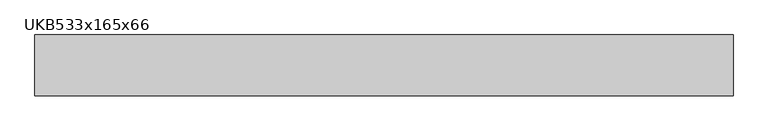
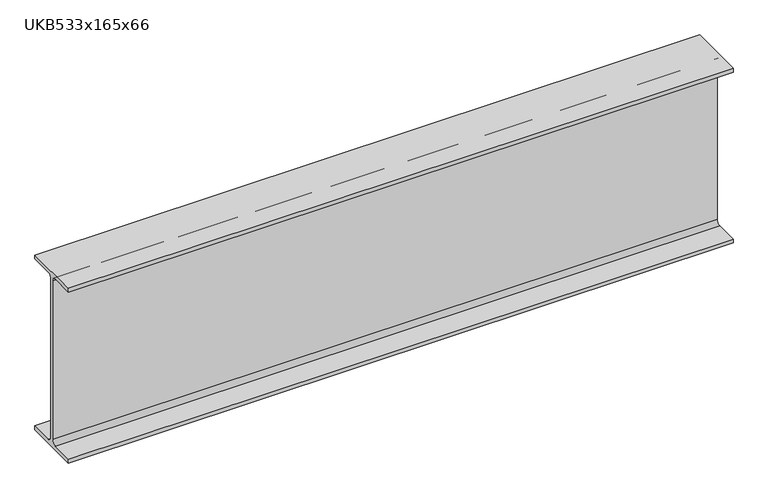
"""IFC4 building model written with IfcOpenShell, lengths in millimetres: beam geometry, UKB-UK Beams : UKB533x165x66."""

import ifcopenshell
import ifcopenshell.guid

model = None  # the IFC model being written
_history = None  # IfcOwnerHistory: only IFC2X3 demands one
_inside = {}  # id of a spatial element -> (the spatial element, [elements in it])
_under = {}  # id of a project, library or spatial element -> (it, [spatial elements below it])
_declared = {}  # id of a project -> (the project, [libraries it declares])
_typed = {}  # id of a type object -> (the type object, [elements of that type])
_made_of = {}  # id of a material, layer set ... -> (it, [elements and type objects made of it])


def new_model(schema):
    """Start an empty IFC model of exactly this schema.

    Asked for "IFC4X3", IfcOpenShell would pick the latest addendum, in which some entities
    have other attributes; the version numbers below select the first issue.
    IFC2X3 requires an IfcOwnerHistory on every rooted entity: one is made here for all.
    """
    global model, _history
    if schema == "IFC4X3":
        model = ifcopenshell.file(schema_version=(4, 3, 0, 0))
    else:
        model = ifcopenshell.file(schema=schema)
    _inside.clear()
    _under.clear()
    _declared.clear()
    _typed.clear()
    _made_of.clear()
    _history = None
    if model.schema == "IFC2X3":
        org = make("IfcOrganization", Name="unknown")
        user = make(
            "IfcPersonAndOrganization",
            ThePerson=make("IfcPerson", FamilyName="unknown"),
            TheOrganization=org,
        )
        app = make(
            "IfcApplication",
            ApplicationDeveloper=org,
            Version="unknown",
            ApplicationFullName="unknown",
            ApplicationIdentifier="unknown",
        )
        _history = make(
            "IfcOwnerHistory",
            OwningUser=user,
            OwningApplication=app,
            ChangeAction="ADDED",
            CreationDate=0,
        )
    return model


def make(cls, **values):
    """One entity of the class cls with the attributes given. An attribute that is None is left unset."""
    return model.create_entity(
        cls, **{name: value for name, value in values.items() if value is not None}
    )


def rooted(cls, **values):
    """An entity with a GlobalId (a new one), such as an element, a storey or a relation."""
    return make(cls, GlobalId=ifcopenshell.guid.new(), OwnerHistory=_history, **values)


def si_unit(unit_type, name, prefix=None):
    """IfcSIUnit, for example si_unit("LENGTHUNIT", "METRE", prefix="MILLI")."""
    return make("IfcSIUnit", UnitType=unit_type, Prefix=prefix, Name=name)


def assignment(units):
    """IfcUnitAssignment: the units of a project."""
    return None if units is None else make("IfcUnitAssignment", Units=units)


def point(xyz):
    """IfcCartesianPoint."""
    return None if xyz is None else make("IfcCartesianPoint", Coordinates=xyz)


def direction(xyz):
    """IfcDirection."""
    return None if xyz is None else make("IfcDirection", DirectionRatios=xyz)


def frame(location, z_axis=None, x_axis=None):
    """IfcAxis2Placement3D, a coordinate frame: its origin and axes. An axis left out is left unset."""
    return make(
        "IfcAxis2Placement3D",
        Location=point(location),
        Axis=direction(z_axis),
        RefDirection=direction(x_axis),
    )


def frame_2d(location, x_axis=None):
    """IfcAxis2Placement2D, a coordinate frame in the plane: its origin and x axis."""
    return make(
        "IfcAxis2Placement2D", Location=point(location), RefDirection=direction(x_axis)
    )


def origin():
    """The frame at (0, 0, 0) with its axes left unset."""
    return frame((0.0, 0.0, 0.0))


def place(relative_to, where):
    """IfcLocalPlacement: puts the frame where relative to a parent placement (None: the world)."""
    return make(
        "IfcLocalPlacement", PlacementRelTo=relative_to, RelativePlacement=where
    )


def context(
    kind, dimensions, precision=None, world=None, true_north=None, identifier=None
):
    """IfcGeometricRepresentationContext, for example the 3D "Model" context."""
    return make(
        "IfcGeometricRepresentationContext",
        ContextIdentifier=identifier,
        ContextType=kind,
        CoordinateSpaceDimension=dimensions,
        Precision=precision,
        WorldCoordinateSystem=world,
        TrueNorth=true_north,
    )


def project(units=None, contexts=None):
    """IfcProject with its units and contexts."""
    return rooted(
        "IfcProject",
        Name="project",
        RepresentationContexts=contexts,
        UnitsInContext=assignment(units),
    )


def spatial(cls, under=None, at=None, **own):
    """A site, building, storey or space (cls), placed at a placement, below another one or the project."""
    s = rooted(cls, ObjectPlacement=at, **own)
    if under is not None:
        _under.setdefault(under.id(), (under, []))[1].append(s)
    return s


def polyline(points):
    """IfcPolyline through the points."""
    return make("IfcPolyline", Points=[point(p) for p in points])


def circle_curve(where, radius):
    """IfcCircle in the frame where."""
    return make("IfcCircle", Position=where, Radius=radius)


def trimmed(basis, trim1, trim2, sense, master):
    """IfcTrimmedCurve: the piece of a basis curve between two trims."""
    return make(
        "IfcTrimmedCurve",
        BasisCurve=basis,
        Trim1=trim1,
        Trim2=trim2,
        SenseAgreement=sense,
        MasterRepresentation=master,
    )


def segment(curve, same_sense, transition):
    """IfcCompositeCurveSegment."""
    return make(
        "IfcCompositeCurveSegment",
        Transition=transition,
        SameSense=same_sense,
        ParentCurve=curve,
    )


def composite_curve(segments, self_intersect=None):
    """IfcCompositeCurve: segments joined end to end."""
    return make("IfcCompositeCurve", Segments=segments, SelfIntersect=self_intersect)


def outline(outer, holes=None, kind="AREA"):
    """IfcArbitraryClosedProfileDef: a profile drawn as a closed curve; with holes, ...WithVoids."""
    if holes is None:
        return make("IfcArbitraryClosedProfileDef", ProfileType=kind, OuterCurve=outer)
    return make(
        "IfcArbitraryProfileDefWithVoids",
        ProfileType=kind,
        OuterCurve=outer,
        InnerCurves=holes,
    )


def extrude(swept, where, along, depth):
    """IfcExtrudedAreaSolid: the profile swept, set in the frame where, extruded along a direction by depth."""
    return make(
        "IfcExtrudedAreaSolid",
        SweptArea=swept,
        Position=where,
        ExtrudedDirection=direction(along),
        Depth=depth,
    )


def shape(context_of_items, identifier, shape_type, items):
    """IfcShapeRepresentation: the items that make up one representation, for example the "Body"."""
    return make(
        "IfcShapeRepresentation",
        ContextOfItems=context_of_items,
        RepresentationIdentifier=identifier,
        RepresentationType=shape_type,
        Items=items,
    )


def source(mapping_origin, context_of_items, identifier, shape_type, items):
    """IfcRepresentationMap: a shape defined once, which mapped items show again and again."""
    return make(
        "IfcRepresentationMap",
        MappingOrigin=mapping_origin,
        MappedRepresentation=shape(context_of_items, identifier, shape_type, items),
    )


def transform(
    local_origin,
    x_axis=None,
    y_axis=None,
    z_axis=None,
    scale=None,
    scale2=None,
    scale3=None,
    uniform=True,
):
    """IfcCartesianTransformationOperator3D, or its non-uniform kind. x_axis, y_axis, z_axis: its Axis1, 2, 3."""
    if uniform:
        return make(
            "IfcCartesianTransformationOperator3D",
            Axis1=direction(x_axis),
            Axis2=direction(y_axis),
            LocalOrigin=point(local_origin),
            Scale=scale,
            Axis3=direction(z_axis),
        )
    return make(
        "IfcCartesianTransformationOperator3DnonUniform",
        Axis1=direction(x_axis),
        Axis2=direction(y_axis),
        LocalOrigin=point(local_origin),
        Scale=scale,
        Axis3=direction(z_axis),
        Scale2=scale2,
        Scale3=scale3,
    )


def mapped(mapping_source, mapping_target):
    """IfcMappedItem: shows the shape of a source again, moved by a transform."""
    return make(
        "IfcMappedItem", MappingSource=mapping_source, MappingTarget=mapping_target
    )


def made_of(thing, what):
    """Note that an element or type object is made of a material, layer set ...; save() writes the relation."""
    if what is not None:
        _made_of.setdefault(what.id(), (what, []))[1].append(thing)
    return thing


def element(
    cls,
    number,
    at=None,
    inside=None,
    cuts=None,
    type_object=None,
    material=None,
    context=None,
    identifier="Body",
    shape_type=None,
    held_by="IfcProductDefinitionShape",
    body=None,
    shapes=None,
    **own,
):
    """One element of the class cls, such as IfcWall. Its Tag is "e" and its number.

    at: its placement. inside: the storey or other place that contains it. cuts: it is an
    opening in that element (IfcRelVoidsElement). A single representation is given by context,
    identifier, shape_type and body (its items); several are given by shapes. held_by: the class
    of the entity that holds the representations. save() writes the other relations.
    """
    e = rooted(cls, Tag="e%d" % number, ObjectPlacement=at, **own)
    if body is not None:
        shapes = [shape(context, identifier, shape_type, body)]
    if shapes is not None:
        e.Representation = make(held_by, Representations=shapes)
    if inside is not None:
        _inside.setdefault(inside.id(), (inside, []))[1].append(e)
    if cuts is not None:
        rooted(
            "IfcRelVoidsElement", RelatingBuildingElement=cuts, RelatedOpeningElement=e
        )
    if type_object is not None:
        _typed.setdefault(type_object.id(), (type_object, []))[1].append(e)
    return made_of(e, material)


def aggregate(whole, parts):
    """IfcRelAggregates: a whole, such as a stair, and the parts it consists of."""
    return rooted("IfcRelAggregates", RelatingObject=whole, RelatedObjects=parts)


def save(model, path):
    """Write the relations noted so far, then the file.

    IfcRelAggregates (storeys below a building ...), IfcRelContainedInSpatialStructure (elements
    in a storey), IfcRelDefinesByType, IfcRelAssociatesMaterial and IfcRelDeclares: one each for
    every whole, place, type object, material and project.
    """
    for whole, parts in _under.values():
        aggregate(whole, parts)
    for where, things in _inside.values():
        rooted(
            "IfcRelContainedInSpatialStructure",
            RelatedElements=things,
            RelatingStructure=where,
        )
    for kind, things in _typed.values():
        rooted("IfcRelDefinesByType", RelatedObjects=things, RelatingType=kind)
    for what, things in _made_of.values():
        rooted("IfcRelAssociatesMaterial", RelatedObjects=things, RelatingMaterial=what)
    for by, libraries in _declared.values():
        rooted("IfcRelDeclares", RelatingContext=by, RelatedDefinitions=libraries)
    model.write(path)


def ukb533x165x66_d75856db(model_context):
    return source(origin(), model_context, "Body", "SweptSolid", [
        extrude(outline(composite_curve([segment(polyline([(82.55, -250.95), (82.55, -262.35), (-82.55, -262.35), (-82.55, -250.95), (-17.15, -250.95)]), True, "CONTINUOUS"), segment(trimmed(circle_curve(frame_2d((-17.15, -238.25)), 12.7), [point((-17.15, -250.95))], [point((-4.45, -238.25))], True, "CARTESIAN"), True, "CONTINUOUS"), segment(polyline([(-4.45, -238.25), (-4.45, 238.25)]), True, "CONTINUOUS"), segment(trimmed(circle_curve(frame_2d((-17.15, 238.25)), 12.7), [point((-4.45, 238.25))], [point((-17.15, 250.95))], True, "CARTESIAN"), True, "CONTINUOUS"), segment(polyline([(-17.15, 250.95), (-82.55, 250.95), (-82.55, 262.35), (82.55, 262.35), (82.55, 250.95), (17.15, 250.95)]), True, "CONTINUOUS"), segment(trimmed(circle_curve(frame_2d((17.15, 238.25)), 12.7), [point((17.15, 250.95))], [point((4.45, 238.25))], True, "CARTESIAN"), True, "CONTINUOUS"), segment(polyline([(4.45, 238.25), (4.45, -238.25)]), True, "CONTINUOUS"), segment(trimmed(circle_curve(frame_2d((17.15, -238.25)), 12.7), [point((4.45, -238.25))], [point((17.15, -250.95))], True, "CARTESIAN"), True, "CONTINUOUS"), segment(polyline([(17.15, -250.95), (82.55, -250.95)]), True, "CONTINUOUS")], self_intersect=False)), frame((-944.0, 0.0, 0.0), z_axis=(1.0, 0.0, 0.0), x_axis=(0.0, 1.0, 0.0)), (0.0, 0.0, 1.0), 1888.0),
    ])


if __name__ == "__main__":
    model = new_model("IFC4")
    model_context = context("Model", 3, world=origin())
    ifc_project = project(units=[si_unit("LENGTHUNIT", "METRE", prefix="MILLI")], contexts=[model_context])
    site = spatial("IfcSite", under=ifc_project)
    building = spatial("IfcBuilding", under=site)
    placement = place(None, origin())
    ukb533x165x66_shape = ukb533x165x66_d75856db(model_context)
    element("IfcBeam", 1, ObjectType="UKB-UK Beams : UKB533x165x66", at=placement, inside=building, context=model_context, shape_type="MappedRepresentation", body=[
        mapped(ukb533x165x66_shape, transform((0.0, 0.0, 0.0), x_axis=(1.0, 0.0, 0.0), y_axis=(0.0, 1.0, 0.0), z_axis=(0.0, 0.0, 1.0))),
    ])
    save(model, "model.ifc")
